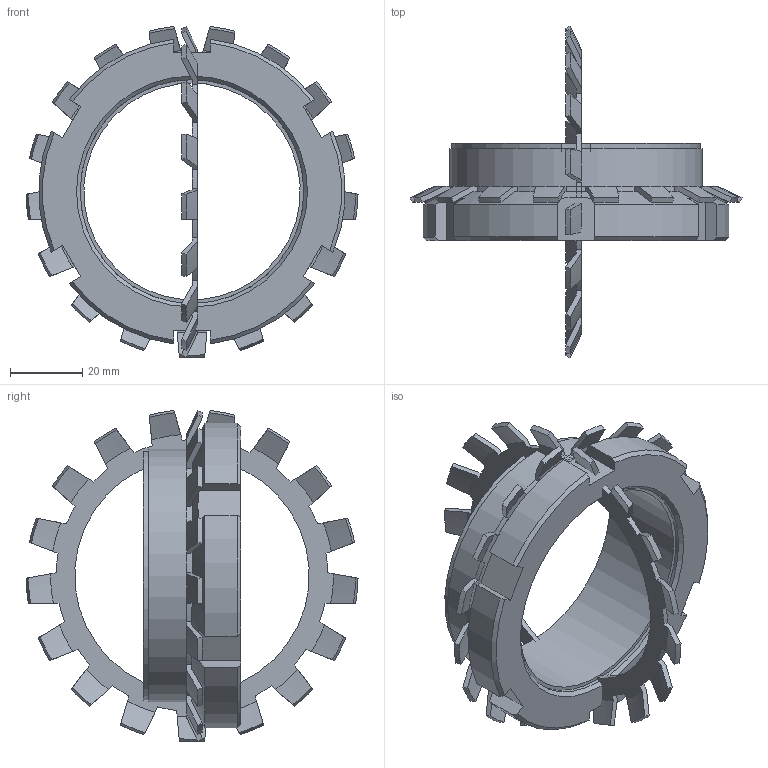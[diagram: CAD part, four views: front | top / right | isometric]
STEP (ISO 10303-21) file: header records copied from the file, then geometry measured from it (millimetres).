
FILE_DESCRIPTION( ( 'Unknown' ), '1' );
FILE_NAME( 'C:/Dokumente und Einstellungen/Sven/Desktop/homepage/cad - homepage/KBS51/KBS 51 - 60 x 70.stp', 'Unknown', ( 'Unknown' ), ( 'Unknown' ), 'XStep 1.0', 'Unknown', ' ' );
FILE_SCHEMA( ( 'automotive_design' ) );
Length unit declared in the file: millimetre
Products named in the file (3): Assem1; KBS 51 - 60 x 70; 08570134_locking_plate_din_5406_mb_13_2_14a
Bounding box: 91.99 x 91.99 x 91.71 mm (x, y, z)
Volume: 96756.6 mm3; surface area: 44627.3 mm2
Topology: 4 solids, 4 shells, 308 faces, 892 edges, 592 vertices
Faces by surface type: plane 132, cone 122, cylinder 54
Full cylindrical faces by diameter (mm): 62 x2, 70 x2
Entity records: 5514 total; most frequent: CARTESIAN_POINT 1157, ORIENTED_EDGE 880, DIRECTION 822, EDGE_CURVE 440, AXIS2_PLACEMENT_3D 325, VERTEX_POINT 294, LINE 172, VECTOR 172
